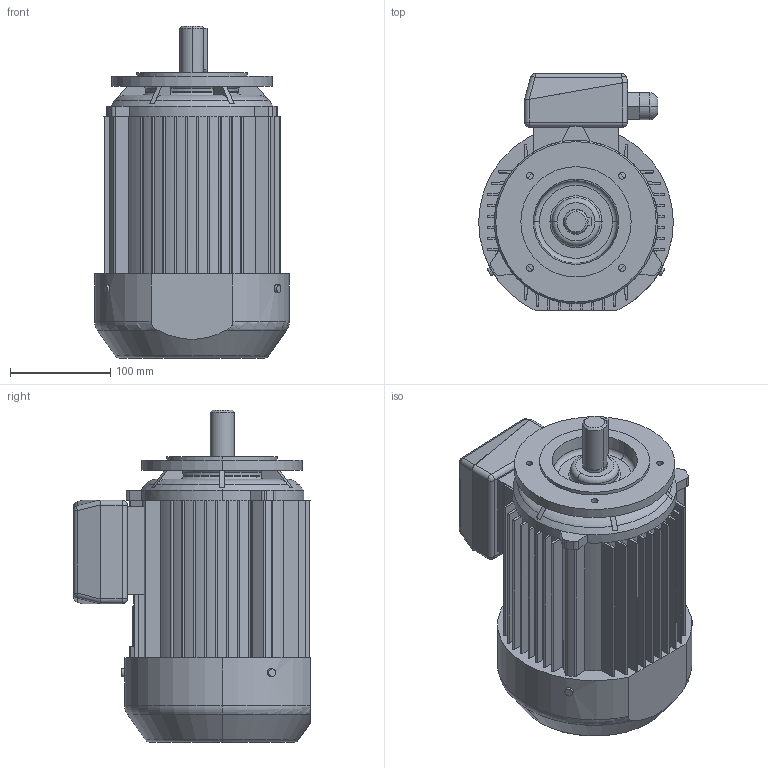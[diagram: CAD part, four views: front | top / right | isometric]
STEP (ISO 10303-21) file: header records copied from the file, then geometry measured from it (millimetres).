
FILE_DESCRIPTION (( 'STEP AP203' ), '1' );
FILE_NAME ('3SIEK90S2,4,6,L2-B14-C1.STEP', '2016-02-08T11:55:38', ( 'Indukta' ), ( 'Celma Indukta S.A.' ), 'SwSTEP 2.0', 'SolidWorks 2003064', '' );
FILE_SCHEMA (( 'CONFIG_CONTROL_DESIGN' ));
Length unit declared in the file: millimetre
Products named in the file (1): 3SIEK90S2,4,6,L2-B14-C1
Bounding box: 194 x 236 x 331 mm (x, y, z)
Volume: 6990514.2 mm3; surface area: 381469.4 mm2
Topology: 1 solids, 1 shells, 603 faces, 1618 edges, 1031 vertices
Faces by surface type: plane 311, cylinder 155, bspline 78, torus 37, cone 14, sphere 8
Entity records: 25478 total; most frequent: CARTESIAN_POINT 10681, ORIENTED_EDGE 3220, DIRECTION 2878, EDGE_CURVE 1610, VERTEX_POINT 1031, AXIS2_PLACEMENT_3D 990, LINE 898, VECTOR 898
